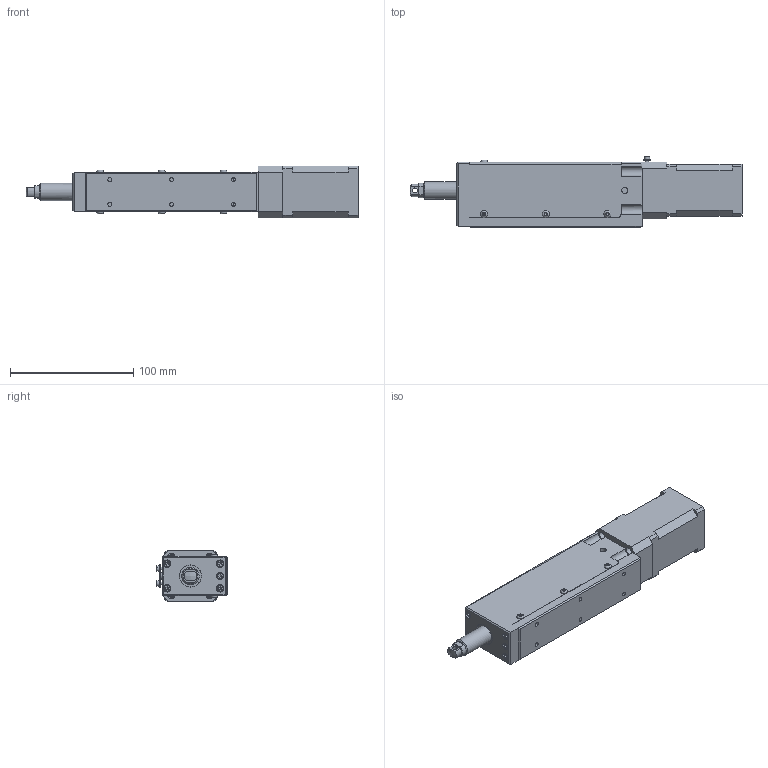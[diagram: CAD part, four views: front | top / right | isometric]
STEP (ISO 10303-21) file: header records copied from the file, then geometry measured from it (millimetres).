
FILE_DESCRIPTION(/* description */ (''),/* implementation_level */ '2;1');
FILE_NAME(/* name */ 'C:\Users\dsgn39.CENTRAS\Desktop\Internetui\8CMA42V-2-V423\8CMA42V-2-V423.stp',/* time_stamp */ '2018-11-30T09:10:56+02:00',/* author */ ('dsgn39'),/* organization */ (''),/* preprocessor_version */ 'ST-DEVELOPER v15.2',/* originating_system */ 'Autodesk Inventor 2014',/* authorisation */ '');
FILE_SCHEMA (('AUTOMOTIVE_DESIGN { 1 0 10303 214 3 1 1 }'));
Length unit declared in the file: millimetre
Products named in the file (2): Part2; Assembly1
Bounding box: 269 x 57.5 x 42 mm (x, y, z)
Volume: 395793.8 mm3; surface area: 49974.6 mm2
Topology: 1 solids, 15 shells, 400 faces, 930 edges, 607 vertices
Faces by surface type: plane 257, cylinder 91, cone 21, torus 21, bspline 9, sphere 1
Full cylindrical faces by diameter (mm): 2.5 x2, 2.9 x2, 3 x16, 3.242 x6, 3.3 x4, 3.4 x9, 3.6 x7, 4 x1, 4.5 x2, 5 x2, 5.5 x5, 5.7 x7, 6 x9, 14 x1, 18 x2, 21 x1, 22 x1
Entity records: 10585 total; most frequent: CARTESIAN_POINT 2255, DIRECTION 1693, ORIENTED_EDGE 1528, EDGE_CURVE 764, AXIS2_PLACEMENT_3D 634, EDGE_LOOP 598, VERTEX_POINT 560, LINE 425
